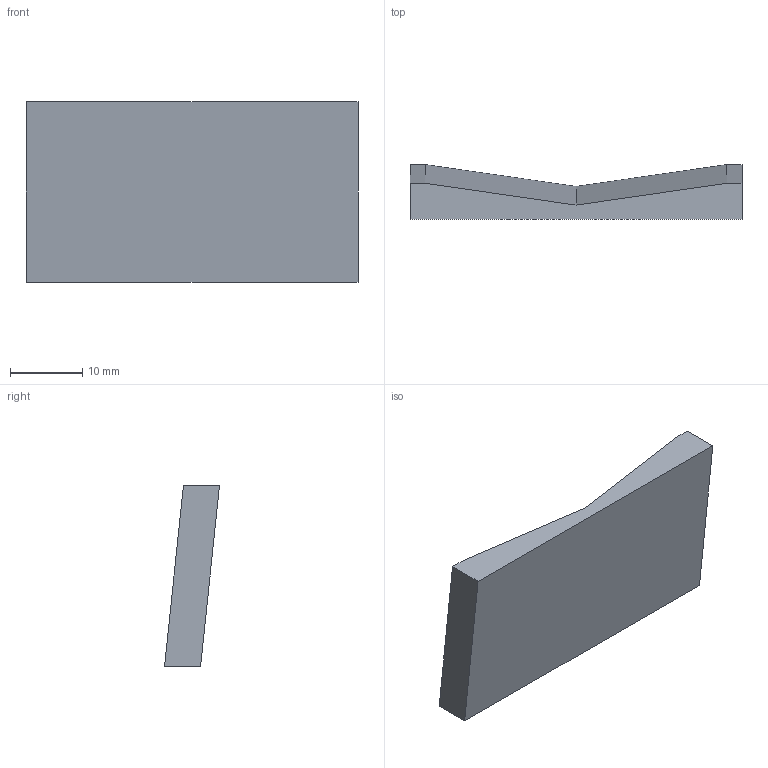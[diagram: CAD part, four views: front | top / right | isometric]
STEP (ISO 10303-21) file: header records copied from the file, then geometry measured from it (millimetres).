
FILE_DESCRIPTION(('Open CASCADE Model'),'2;1');
FILE_NAME('Open CASCADE Shape Model','2026-10-16T03:24:50',('Author'),( 'Open CASCADE'),'Open CASCADE STEP processor 7.9','Open CASCADE 7.9' ,'Unknown');
FILE_SCHEMA(('AUTOMOTIVE_DESIGN { 1 0 10303 214 1 1 1 1 }'));
Length unit declared in the file: millimetre
Products named in the file (1): Open CASCADE STEP translator 7.9 13
Bounding box: 46 x 7.63 x 25 mm (x, y, z)
Volume: 4172.5 mm3; surface area: 2907.2 mm2
Topology: 1 solids, 1 shells, 9 faces, 21 edges, 14 vertices
Faces by surface type: plane 9
Entity records: 516 total; most frequent: CARTESIAN_POINT 109, DIRECTION 61, ORIENTED_EDGE 42, PCURVE 42, DEFINITIONAL_REPRESENTATION 42, LINE 41, VECTOR 41, B_SPLINE_CURVE_WITH_KNOTS 22
